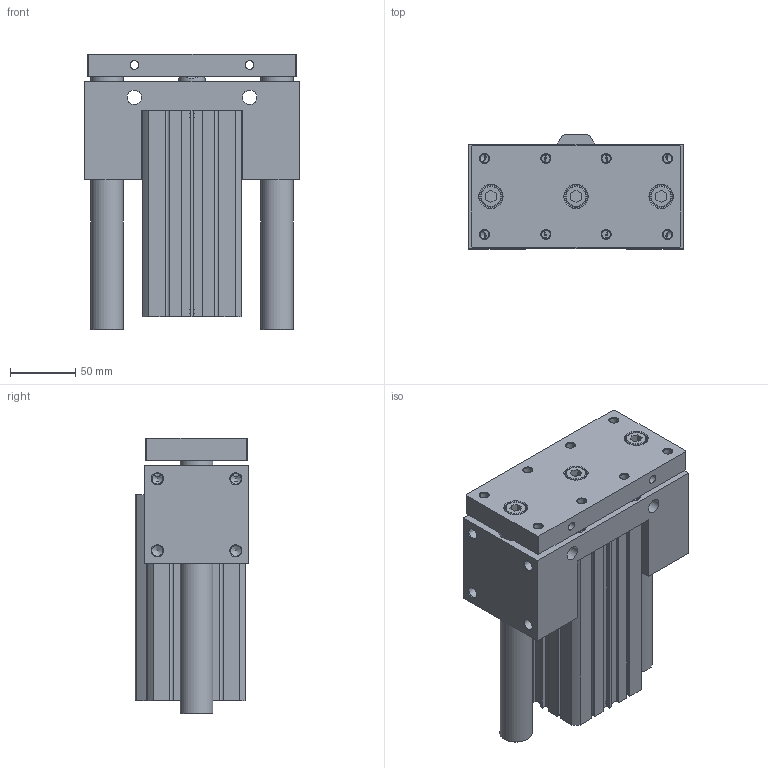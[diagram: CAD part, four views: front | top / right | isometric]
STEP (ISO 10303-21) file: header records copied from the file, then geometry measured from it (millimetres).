
FILE_DESCRIPTION((''),'2;1');
FILE_NAME('I:\3D電子目錄\氣缸\JCB\JCB\JCB63-S\JCB63x115-S.stp','2007-09-01T15:33:14',('Administrator'),(''),'Autodesk Inventor 11','Autodesk Inventor 11','');
FILE_SCHEMA(('AUTOMOTIVE_DESIGN { 1 0 10303 214 1 1 1 1 }'));
Length unit declared in the file: millimetre
Products named in the file (1): JCB63
Bounding box: 164 x 87 x 210.5 mm (x, y, z)
Volume: 1762703.4 mm3; surface area: 253120.1 mm2
Topology: 3 solids, 5 shells, 343 faces, 829 edges, 538 vertices
Faces by surface type: plane 186, cylinder 62, cone 47, bspline 40, torus 8
Full cylindrical faces by diameter (mm): 3 x2, 6.8 x4, 8.376 x4, 11 x8, 13 x4, 14 x4, 16 x3, 17.5 x3, 20 x1, 21 x1, 25 x2, 28 x2, 40 x1, 47 x1, 65 x4, 68 x2
Entity records: 10008 total; most frequent: CARTESIAN_POINT 2670, DIRECTION 1474, ORIENTED_EDGE 1320, EDGE_CURVE 660, EDGE_LOOP 554, AXIS2_PLACEMENT_3D 532, VERTEX_POINT 498, VECTOR 410
